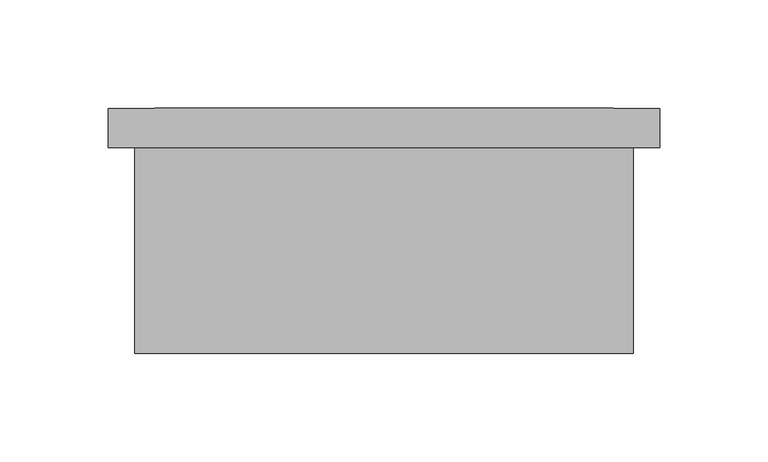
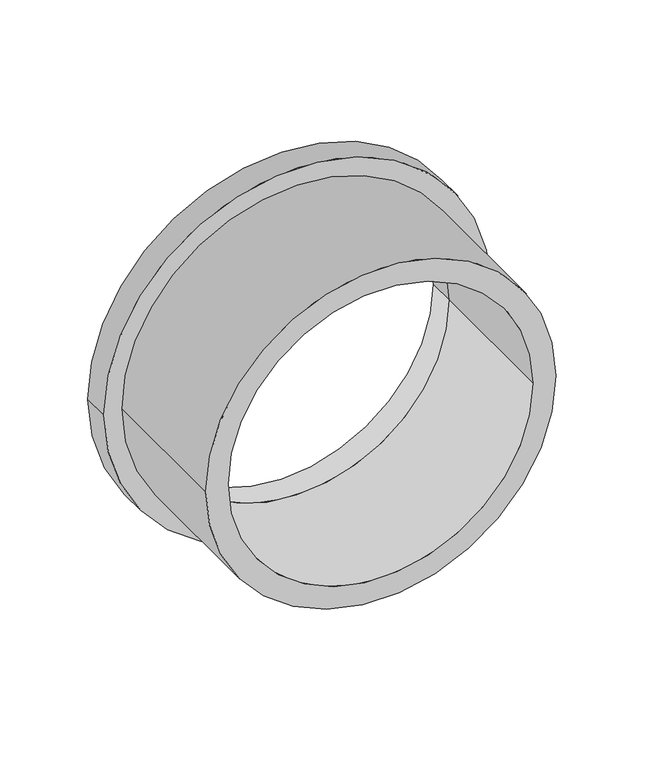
"""IFC4 building model written with IfcOpenShell, lengths in millimetres: pipe fitting geometry, 01051020 : Collets."""

from ifc_helpers import new_model, si_unit, point, frame, origin, origin_2d, place, context, project, spatial, circle_curve, trimmed, segment, composite_curve, outline, extrude, source, transform, mapped, element, save


def pipe_fitting_b7aad688(model_context):
    return source(origin(), model_context, "Body", "SweptSolid", [
        extrude(outline(composite_curve([segment(trimmed(circle_curve(origin_2d(), 115.0), [point((0.0, -115.0))], [point((0.0, 115.0))], False, "CARTESIAN"), True, "CONTINUOUS"), segment(trimmed(circle_curve(origin_2d(), 115.0), [point((0.0, 115.0))], [point((0.0, -115.0))], False, "CARTESIAN"), True, "CONTINUOUS")], self_intersect=False), holes=[composite_curve([segment(trimmed(circle_curve(origin_2d(), 100.0), [point((0.0, -100.0))], [point((0.0, 100.0))], True, "CARTESIAN"), True, "CONTINUOUS"), segment(trimmed(circle_curve(origin_2d(), 100.0), [point((0.0, 100.0))], [point((0.0, -100.0))], True, "CARTESIAN"), True, "CONTINUOUS")], self_intersect=False)]), frame((0.0, -95.0, 0.0), z_axis=(0.0, 1.0, 0.0), x_axis=(0.0, 0.0, 1.0)), (0.0, 0.0, 1.0), 95.0),
        extrude(outline(composite_curve([segment(trimmed(circle_curve(origin_2d(), 127.0), [point((0.0, -127.0))], [point((0.0, 127.0))], False, "CARTESIAN"), True, "CONTINUOUS"), segment(trimmed(circle_curve(origin_2d(), 127.0), [point((0.0, 127.0))], [point((0.0, -127.0))], False, "CARTESIAN"), True, "CONTINUOUS")], self_intersect=False), holes=[composite_curve([segment(trimmed(circle_curve(origin_2d(), 100.0), [point((0.0, -100.0))], [point((0.0, 100.0))], True, "CARTESIAN"), True, "CONTINUOUS"), segment(trimmed(circle_curve(origin_2d(), 100.0), [point((0.0, 100.0))], [point((0.0, -100.0))], True, "CARTESIAN"), True, "CONTINUOUS")], self_intersect=False)]), frame((0.0, 0.0, 0.0), z_axis=(0.0, 1.0, 0.0), x_axis=(0.0, 0.0, 1.0)), (0.0, 0.0, 1.0), 18.0),
    ])


if __name__ == "__main__":
    model = new_model("IFC4")
    model_context = context("Model", 3, world=origin())
    ifc_project = project(units=[si_unit("LENGTHUNIT", "METRE", prefix="MILLI")], contexts=[model_context])
    site = spatial("IfcSite", under=ifc_project)
    building = spatial("IfcBuilding", under=site)
    placement = place(None, origin())
    pipe_fitting_shape = pipe_fitting_b7aad688(model_context)
    element("IfcPipeFitting", 1, ObjectType="01051020 : Collets", at=placement, inside=building, context=model_context, shape_type="MappedRepresentation", body=[
        mapped(pipe_fitting_shape, transform((0.0, 0.0, 0.0), x_axis=(1.0, 0.0, 0.0), y_axis=(0.0, 1.0, 0.0), z_axis=(0.0, 0.0, 1.0))),
    ])
    save(model, "model.ifc")
